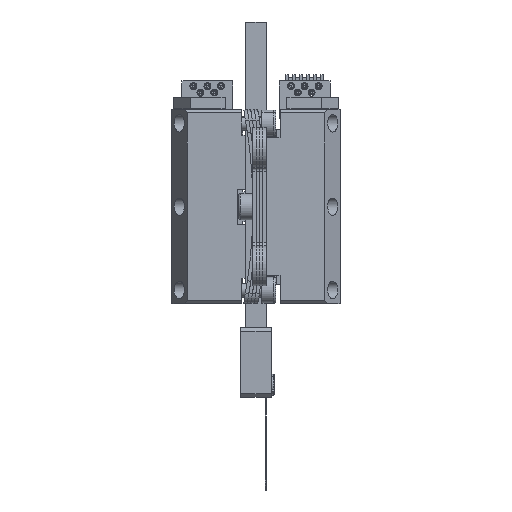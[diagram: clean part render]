
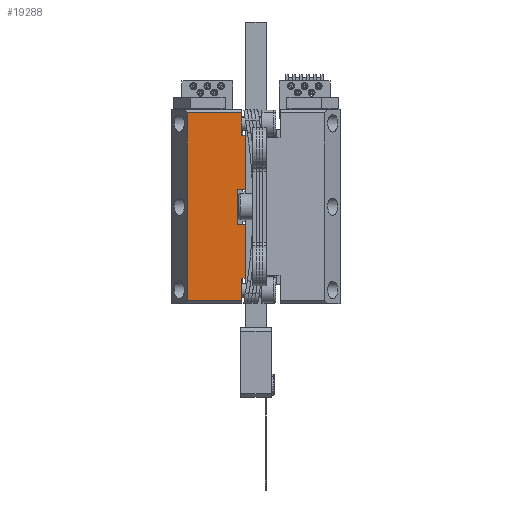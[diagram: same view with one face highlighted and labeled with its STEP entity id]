
A CAD part, left-side view. The second image highlights one B-rep face of the part: STEP entity #19288.
In plain terms, the highlighted planar face has unit normal (-1, 0, 0).
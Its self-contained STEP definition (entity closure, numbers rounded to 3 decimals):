
#743 = LINE ( 'NONE', #38598, #38340 ) ;
#1767 = CARTESIAN_POINT ( 'NONE',  ( -7., 4.16, -2.5 ) ) ;
#1852 = VERTEX_POINT ( 'NONE', #3979 ) ;
#2264 = EDGE_CURVE ( 'NONE', #26855, #38142, #8854, .T. ) ;
#3979 = CARTESIAN_POINT ( 'NONE',  ( -7., 3., -10.3 ) ) ;
#4891 = AXIS2_PLACEMENT_3D ( 'NONE', #33981, #17773, #20966 ) ;
#5293 = DIRECTION ( 'NONE',  ( 0., 0., 1. ) ) ;
#5788 = VECTOR ( 'NONE', #33203, 1000. ) ;
#6268 = VECTOR ( 'NONE', #11252, 1000. ) ;
#7018 = ORIENTED_EDGE ( 'NONE', *, *, #2264, .F. ) ;
#7063 = EDGE_CURVE ( 'NONE', #32206, #1852, #32833, .T. ) ;
#7102 = LINE ( 'NONE', #20722, #39837 ) ;
#7146 = DIRECTION ( 'NONE',  ( 0., 1., 0. ) ) ;
#7438 = CARTESIAN_POINT ( 'NONE',  ( -7., 3.56, -10.3 ) ) ;
#7490 = CARTESIAN_POINT ( 'NONE',  ( -7., 3.56, 14. ) ) ;
#7557 = VECTOR ( 'NONE', #23078, 1000. ) ;
#8159 = LINE ( 'NONE', #17466, #25503 ) ;
#8272 = CARTESIAN_POINT ( 'NONE',  ( -7., 4.16, -2.5 ) ) ;
#8854 = LINE ( 'NONE', #31194, #24684 ) ;
#8963 = VERTEX_POINT ( 'NONE', #22397 ) ;
#9097 = CARTESIAN_POINT ( 'NONE',  ( -7., 11.412, 13.5 ) ) ;
#9412 = CARTESIAN_POINT ( 'NONE',  ( -7., 3., -14. ) ) ;
#10044 = CARTESIAN_POINT ( 'NONE',  ( -7., 3., -2.5 ) ) ;
#10678 = VECTOR ( 'NONE', #20213, 1000. ) ;
#10698 = VECTOR ( 'NONE', #12444, 1000. ) ;
#10756 = VECTOR ( 'NONE', #36644, 1000. ) ;
#10828 = EDGE_CURVE ( 'NONE', #12092, #34331, #25115, .T. ) ;
#10998 = ORIENTED_EDGE ( 'NONE', *, *, #23593, .F. ) ;
#11252 = DIRECTION ( 'NONE',  ( 0., -1., 0. ) ) ;
#11503 = EDGE_CURVE ( 'NONE', #32954, #38142, #14157, .T. ) ;
#11745 = LINE ( 'NONE', #23201, #5788 ) ;
#12092 = VERTEX_POINT ( 'NONE', #36149 ) ;
#12128 = CARTESIAN_POINT ( 'NONE',  ( -7., 3.56, 10.3 ) ) ;
#12351 = EDGE_CURVE ( 'NONE', #36201, #17672, #35864, .T. ) ;
#12444 = DIRECTION ( 'NONE',  ( 0., 0., 1. ) ) ;
#13839 = CARTESIAN_POINT ( 'NONE',  ( -7., 3.56, -10.3 ) ) ;
#14157 = LINE ( 'NONE', #9412, #10698 ) ;
#15136 = CARTESIAN_POINT ( 'NONE',  ( -7., 3., -14. ) ) ;
#15210 = EDGE_CURVE ( 'NONE', #33111, #32954, #8159, .T. ) ;
#15268 = ORIENTED_EDGE ( 'NONE', *, *, #24563, .F. ) ;
#15823 = CARTESIAN_POINT ( 'NONE',  ( -7., 4.16, 2.5 ) ) ;
#17153 = LINE ( 'NONE', #15136, #27062 ) ;
#17388 = ORIENTED_EDGE ( 'NONE', *, *, #10828, .F. ) ;
#17466 = CARTESIAN_POINT ( 'NONE',  ( -7., 4.16, 2.5 ) ) ;
#17672 = VERTEX_POINT ( 'NONE', #9097 ) ;
#17773 = DIRECTION ( 'NONE',  ( 1., 0., 0. ) ) ;
#18304 = CARTESIAN_POINT ( 'NONE',  ( -7., 11.412, -14. ) ) ;
#18325 = ORIENTED_EDGE ( 'NONE', *, *, #29680, .T. ) ;
#18565 = FACE_OUTER_BOUND ( 'NONE', #31094, .T. ) ;
#19096 = LINE ( 'NONE', #7490, #10678 ) ;
#19176 = LINE ( 'NONE', #8272, #10756 ) ;
#19288 = ADVANCED_FACE ( 'NONE', ( #18565 ), #36734, .F. ) ;
#19663 = ORIENTED_EDGE ( 'NONE', *, *, #37862, .T. ) ;
#20213 = DIRECTION ( 'NONE',  ( 0., 0., -1. ) ) ;
#20357 = DIRECTION ( 'NONE',  ( 0., -1., 0. ) ) ;
#20722 = CARTESIAN_POINT ( 'NONE',  ( -7., 3.56, -13.5 ) ) ;
#20966 = DIRECTION ( 'NONE',  ( 0., 0., 1. ) ) ;
#22365 = ORIENTED_EDGE ( 'NONE', *, *, #23531, .F. ) ;
#22397 = CARTESIAN_POINT ( 'NONE',  ( -7., 3.56, -13.5 ) ) ;
#23078 = DIRECTION ( 'NONE',  ( 0., -1., 0. ) ) ;
#23094 = ORIENTED_EDGE ( 'NONE', *, *, #11503, .T. ) ;
#23201 = CARTESIAN_POINT ( 'NONE',  ( -7., 3.56, -10.3 ) ) ;
#23531 = EDGE_CURVE ( 'NONE', #32206, #8963, #11745, .T. ) ;
#23593 = EDGE_CURVE ( 'NONE', #33111, #12092, #19176, .T. ) ;
#23841 = CARTESIAN_POINT ( 'NONE',  ( -7., 3., 10.3 ) ) ;
#24326 = DIRECTION ( 'NONE',  ( 0., -1., 0. ) ) ;
#24563 = EDGE_CURVE ( 'NONE', #34282, #26855, #19096, .T. ) ;
#24684 = VECTOR ( 'NONE', #37706, 1000. ) ;
#24842 = DIRECTION ( 'NONE',  ( 0., 0., 1. ) ) ;
#25115 = LINE ( 'NONE', #1767, #6268 ) ;
#25161 = CARTESIAN_POINT ( 'NONE',  ( -7., 11.412, -13.5 ) ) ;
#25503 = VECTOR ( 'NONE', #20357, 1000. ) ;
#26855 = VERTEX_POINT ( 'NONE', #12128 ) ;
#27062 = VECTOR ( 'NONE', #24842, 1000. ) ;
#29174 = ORIENTED_EDGE ( 'NONE', *, *, #31047, .T. ) ;
#29573 = CARTESIAN_POINT ( 'NONE',  ( -7., 3.56, 13.5 ) ) ;
#29635 = ORIENTED_EDGE ( 'NONE', *, *, #12351, .F. ) ;
#29680 = EDGE_CURVE ( 'NONE', #36201, #8963, #7102, .T. ) ;
#30845 = ORIENTED_EDGE ( 'NONE', *, *, #7063, .T. ) ;
#31047 = EDGE_CURVE ( 'NONE', #34282, #17672, #743, .T. ) ;
#31094 = EDGE_LOOP ( 'NONE', ( #30845, #19663, #17388, #10998, #31338, #23094, #7018, #15268, #29174, #29635, #18325, #22365 ) ) ;
#31194 = CARTESIAN_POINT ( 'NONE',  ( -7., 3.56, 10.3 ) ) ;
#31338 = ORIENTED_EDGE ( 'NONE', *, *, #15210, .T. ) ;
#32206 = VERTEX_POINT ( 'NONE', #13839 ) ;
#32833 = LINE ( 'NONE', #7438, #7557 ) ;
#32954 = VERTEX_POINT ( 'NONE', #39846 ) ;
#33111 = VERTEX_POINT ( 'NONE', #15823 ) ;
#33203 = DIRECTION ( 'NONE',  ( 0., 0., -1. ) ) ;
#33981 = CARTESIAN_POINT ( 'NONE',  ( -7., 14.01, 17.5 ) ) ;
#34282 = VERTEX_POINT ( 'NONE', #29573 ) ;
#34331 = VERTEX_POINT ( 'NONE', #10044 ) ;
#35387 = VECTOR ( 'NONE', #5293, 1000. ) ;
#35864 = LINE ( 'NONE', #18304, #35387 ) ;
#36149 = CARTESIAN_POINT ( 'NONE',  ( -7., 4.16, -2.5 ) ) ;
#36201 = VERTEX_POINT ( 'NONE', #25161 ) ;
#36644 = DIRECTION ( 'NONE',  ( 0., 0., -1. ) ) ;
#36734 = PLANE ( 'NONE',  #4891 ) ;
#37706 = DIRECTION ( 'NONE',  ( 0., -1., 0. ) ) ;
#37862 = EDGE_CURVE ( 'NONE', #1852, #34331, #17153, .T. ) ;
#38142 = VERTEX_POINT ( 'NONE', #23841 ) ;
#38340 = VECTOR ( 'NONE', #7146, 1000. ) ;
#38598 = CARTESIAN_POINT ( 'NONE',  ( -7., 14.01, 13.5 ) ) ;
#39837 = VECTOR ( 'NONE', #24326, 1000. ) ;
#39846 = CARTESIAN_POINT ( 'NONE',  ( -7., 3., 2.5 ) ) ;
